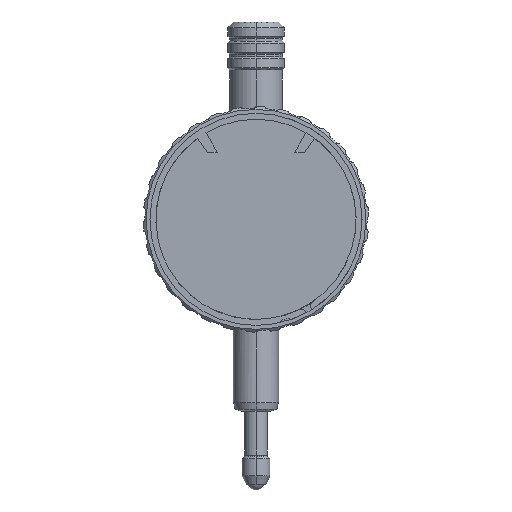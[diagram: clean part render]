
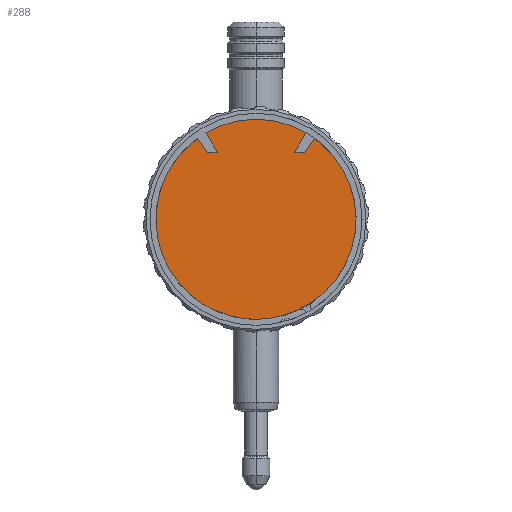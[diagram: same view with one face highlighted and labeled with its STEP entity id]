
A CAD part, front view. The second image highlights one B-rep face of the part: STEP entity #288.
In plain terms, the highlighted planar face has unit normal (0, -1, 0).
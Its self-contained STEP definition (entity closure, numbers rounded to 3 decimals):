
#288=ADVANCED_FACE('',(#821),#822,.F.);
#821=FACE_OUTER_BOUND('',#1419,.T.);
#822=PLANE('',#1420);
#1419=EDGE_LOOP('',(#3532,#3533,#3534,#3535,#3536,#3537,#3538,#3539,#3540,#3541,#3542,#3543));
#1420=AXIS2_PLACEMENT_3D('',#3544,#3545,#3546);
#3532=ORIENTED_EDGE('',*,*,#3963,.T.);
#3533=ORIENTED_EDGE('',*,*,#4583,.T.);
#3534=ORIENTED_EDGE('',*,*,#4584,.T.);
#3535=ORIENTED_EDGE('',*,*,#4585,.T.);
#3536=ORIENTED_EDGE('',*,*,#3969,.T.);
#3537=ORIENTED_EDGE('',*,*,#3975,.T.);
#3538=ORIENTED_EDGE('',*,*,#4586,.T.);
#3539=ORIENTED_EDGE('',*,*,#4587,.T.);
#3540=ORIENTED_EDGE('',*,*,#4588,.T.);
#3541=ORIENTED_EDGE('',*,*,#4589,.T.);
#3542=ORIENTED_EDGE('',*,*,#4590,.T.);
#3543=ORIENTED_EDGE('',*,*,#3977,.T.);
#3544=CARTESIAN_POINT('',(0.0,-12.45,0.));
#3545=DIRECTION('',(0.0,1.0,0.0));
#3546=DIRECTION('',(-1.0,0.0,0.0));
#3963=EDGE_CURVE('',#4890,#4887,#4891,.T.);
#3969=EDGE_CURVE('',#4896,#4900,#4902,.T.);
#3975=EDGE_CURVE('',#4900,#4911,#4914,.T.);
#3977=EDGE_CURVE('',#4916,#4890,#4917,.T.);
#4583=EDGE_CURVE('',#4887,#5909,#5910,.T.);
#4584=EDGE_CURVE('',#5909,#5911,#5912,.T.);
#4585=EDGE_CURVE('',#5911,#4896,#5913,.T.);
#4586=EDGE_CURVE('',#4911,#5914,#5915,.T.);
#4587=EDGE_CURVE('',#5914,#5916,#5917,.T.);
#4588=EDGE_CURVE('',#5916,#5918,#5919,.T.);
#4589=EDGE_CURVE('',#5918,#5920,#5921,.T.);
#4590=EDGE_CURVE('',#5920,#4916,#5922,.T.);
#4887=VERTEX_POINT('',#6161);
#4890=VERTEX_POINT('',#6165);
#4891=CIRCLE('',#6166,0.75);
#4896=VERTEX_POINT('',#6172);
#4900=VERTEX_POINT('',#6177);
#4902=CIRCLE('',#6180,0.75);
#4911=VERTEX_POINT('',#6191);
#4914=CIRCLE('',#6195,17.75);
#4916=VERTEX_POINT('',#6197);
#4917=CIRCLE('',#6198,17.75);
#5909=VERTEX_POINT('',#12439);
#5910=CIRCLE('',#12440,0.75);
#5911=VERTEX_POINT('',#12441);
#5912=CIRCLE('',#12442,18.8);
#5913=CIRCLE('',#12443,0.75);
#5914=VERTEX_POINT('',#12444);
#5915=CIRCLE('',#12445,17.75);
#5916=VERTEX_POINT('',#12446);
#5917=LINE('',#12447,#12448);
#5918=VERTEX_POINT('',#12449);
#5919=LINE('',#12450,#12451);
#5920=VERTEX_POINT('',#12452);
#5921=LINE('',#12453,#12454);
#5922=CIRCLE('',#12455,17.75);
#6161=CARTESIAN_POINT('',(-9.745,-12.45,-15.679));
#6165=CARTESIAN_POINT('',(-9.973,-12.45,-14.683));
#6166=AXIS2_PLACEMENT_3D('',#12738,#12739,#12740);
#6172=CARTESIAN_POINT('',(-8.706,-12.45,-16.279));
#6177=CARTESIAN_POINT('',(-7.73,-12.45,-15.979));
#6180=AXIS2_PLACEMENT_3D('',#12750,#12751,#12752);
#6191=CARTESIAN_POINT('',(15.372,-12.45,8.875));
#6195=AXIS2_PLACEMENT_3D('',#12762,#12763,#12764);
#6197=CARTESIAN_POINT('',(-15.372,-12.45,-8.875));
#6198=AXIS2_PLACEMENT_3D('',#12768,#12769,#12770);
#12439=CARTESIAN_POINT('',(-9.983,-12.45,-15.931));
#12440=AXIS2_PLACEMENT_3D('',#13444,#13445,#13446);
#12441=CARTESIAN_POINT('',(-8.805,-12.45,-16.611));
#12442=AXIS2_PLACEMENT_3D('',#13447,#13448,#13449);
#12443=AXIS2_PLACEMENT_3D('',#13450,#13451,#13452);
#12444=CARTESIAN_POINT('',(10.388,-12.45,14.393));
#12445=AXIS2_PLACEMENT_3D('',#13453,#13454,#13455);
#12446=CARTESIAN_POINT('',(8.595,-12.45,11.908));
#12447=CARTESIAN_POINT('',(4.746,-12.45,6.575));
#12448=VECTOR('',#13456,0.5);
#12449=CARTESIAN_POINT('',(6.875,-12.45,11.908));
#12450=CARTESIAN_POINT('',(3.867,-12.45,11.908));
#12451=VECTOR('',#13457,0.5);
#12452=CARTESIAN_POINT('',(8.875,-12.45,15.372));
#12453=CARTESIAN_POINT('',(3.938,-12.45,6.82));
#12454=VECTOR('',#13458,0.5);
#12455=AXIS2_PLACEMENT_3D('',#13459,#13460,#13461);
#12738=CARTESIAN_POINT('',(-10.394,-12.45,-15.304));
#12739=DIRECTION('',(0.0,1.0,0.0));
#12740=DIRECTION('',(0.866,-0.0,-0.5));
#12750=CARTESIAN_POINT('',(-8.056,-12.45,-16.654));
#12751=DIRECTION('',(0.0,1.0,0.0));
#12752=DIRECTION('',(0.866,-0.0,-0.5));
#12762=CARTESIAN_POINT('',(0.0,-12.45,0.));
#12763=DIRECTION('',(0.0,-1.0,0.0));
#12764=DIRECTION('',(0.866,0.0,0.5));
#12768=CARTESIAN_POINT('',(0.0,-12.45,0.));
#12769=DIRECTION('',(0.0,-1.0,0.0));
#12770=DIRECTION('',(0.866,0.0,0.5));
#13444=CARTESIAN_POINT('',(-10.394,-12.45,-15.304));
#13445=DIRECTION('',(0.0,1.0,0.0));
#13446=DIRECTION('',(0.866,-0.0,-0.5));
#13447=CARTESIAN_POINT('',(0.0,-12.45,0.));
#13448=DIRECTION('',(0.0,-1.0,0.0));
#13449=DIRECTION('',(-1.0,0.0,0.0));
#13450=CARTESIAN_POINT('',(-8.056,-12.45,-16.654));
#13451=DIRECTION('',(0.0,1.0,0.0));
#13452=DIRECTION('',(0.866,-0.0,-0.5));
#13453=CARTESIAN_POINT('',(0.0,-12.45,0.));
#13454=DIRECTION('',(0.0,-1.0,0.0));
#13455=DIRECTION('',(0.866,0.0,0.5));
#13456=DIRECTION('',(-0.585,0.0,-0.811));
#13457=DIRECTION('',(-1.0,0.0,0.));
#13458=DIRECTION('',(0.5,0.0,0.866));
#13459=CARTESIAN_POINT('',(0.0,-12.45,0.));
#13460=DIRECTION('',(0.0,-1.0,0.0));
#13461=DIRECTION('',(0.866,0.0,0.5));
